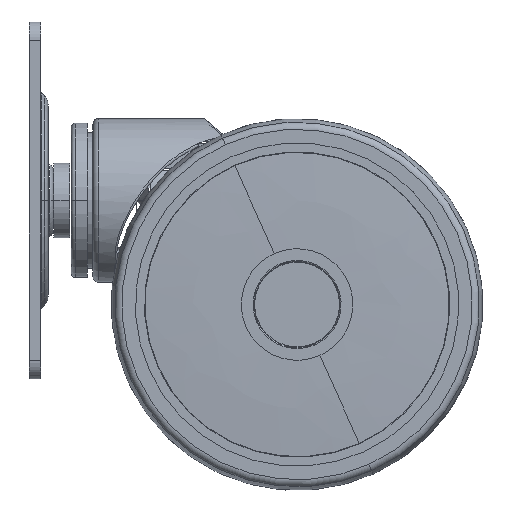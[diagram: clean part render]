
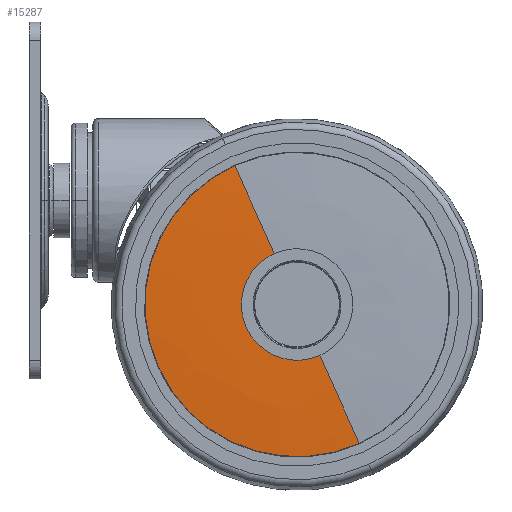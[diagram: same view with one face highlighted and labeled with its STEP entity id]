
A CAD part, left-side view. The second image highlights one B-rep face of the part: STEP entity #15287.
In plain terms, the highlighted free-form (B-spline) face has degree [3, 3] with [7, 4] control points.
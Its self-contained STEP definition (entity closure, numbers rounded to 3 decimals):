
#14877=CARTESIAN_POINT('',(-31.,0.,0.));
#14878=DIRECTION('',(-1.,0.,0.));
#14879=DIRECTION('',(0.,0.409,0.913));
#14880=AXIS2_PLACEMENT_3D('',#14877,#14878,#14879);
#14932=CARTESIAN_POINT('',(-30.204,0.,0.));
#14933=DIRECTION('',(1.,0.,0.));
#14934=DIRECTION('',(0.,-0.409,-0.913));
#14935=AXIS2_PLACEMENT_3D('',#14932,#14933,#14934);
#14937=CARTESIAN_POINT('',(326.9,6.954,15.513));
#14938=DIRECTION('',(0.,-0.913,0.409));
#14939=DIRECTION('',(-0.998,0.027,0.061));
#14940=AXIS2_PLACEMENT_3D('',#14937,#14938,#14939);
#14942=CARTESIAN_POINT('',(326.9,-6.954,-15.513));
#14943=DIRECTION('',(0.,0.913,-0.409));
#14944=DIRECTION('',(-0.998,-0.027,-0.061));
#14945=AXIS2_PLACEMENT_3D('',#14942,#14943,#14944);
#15027=CARTESIAN_POINT('',(-31.,6.136,13.688));
#15028=CARTESIAN_POINT('',(-31.,-6.136,-13.688));
#15029=VERTEX_POINT('',#15027);
#15030=VERTEX_POINT('',#15028);
#15031=CARTESIAN_POINT('',(-30.204,16.743,
37.352));
#15032=CARTESIAN_POINT('',(-30.204,-16.743,
-37.352));
#15033=VERTEX_POINT('',#15031);
#15034=VERTEX_POINT('',#15032);
#15251=CARTESIAN_POINT('',(-30.997,-6.741,
-12.816));
#15252=CARTESIAN_POINT('',(-31.06,-10.93,
-20.78));
#15253=CARTESIAN_POINT('',(-30.784,-15.117,
-28.74));
#15254=CARTESIAN_POINT('',(-30.169,-19.296,
-36.686));
#15255=CARTESIAN_POINT('',(-30.997,1.146,
-16.965));
#15256=CARTESIAN_POINT('',(-31.06,1.858,
-27.506));
#15257=CARTESIAN_POINT('',(-30.784,2.569,
-38.043));
#15258=CARTESIAN_POINT('',(-30.169,3.28,
-48.561));
#15259=CARTESIAN_POINT('',(-30.997,9.569,
-14.055));
#15260=CARTESIAN_POINT('',(-31.06,15.515,
-22.789));
#15261=CARTESIAN_POINT('',(-30.784,21.459,
-31.519));
#15262=CARTESIAN_POINT('',(-30.169,27.391,
-40.232));
#15263=CARTESIAN_POINT('',(-30.997,13.214,
-5.923));
#15264=CARTESIAN_POINT('',(-31.06,21.425,
-9.604));
#15265=CARTESIAN_POINT('',(-30.784,29.633,
-13.283));
#15266=CARTESIAN_POINT('',(-30.169,37.825,
-16.955));
#15267=CARTESIAN_POINT('',(-30.997,16.859,
2.209));
#15268=CARTESIAN_POINT('',(-31.06,27.335,
3.581));
#15269=CARTESIAN_POINT('',(-30.784,37.807,
4.953));
#15270=CARTESIAN_POINT('',(-30.169,48.259,
6.323));
#15271=CARTESIAN_POINT('',(-30.997,13.427,
10.433));
#15272=CARTESIAN_POINT('',(-31.06,21.77,
16.915));
#15273=CARTESIAN_POINT('',(-30.784,30.109,
23.395));
#15274=CARTESIAN_POINT('',(-30.169,38.433,
29.863));
#15275=CARTESIAN_POINT('',(-30.997,5.082,
13.56));
#15276=CARTESIAN_POINT('',(-31.06,8.24,
21.986));
#15277=CARTESIAN_POINT('',(-30.784,11.396,
30.408));
#15278=CARTESIAN_POINT('',(-30.169,14.546,
38.815));
#15279=(BOUNDED_SURFACE()B_SPLINE_SURFACE(3,3,((#15251,#15252,#15253,#15254),(
#15255,#15256,#15257,#15258),(#15259,#15260,#15261,#15262),(#15263,#15264,
#15265,#15266),(#15267,#15268,#15269,#15270),(#15271,#15272,#15273,#15274),(
#15275,#15276,#15277,#15278)),.UNSPECIFIED.,.F.,.F.,.F.)B_SPLINE_SURFACE_WITH_KNOTS((4,3,4),(4,4),(0.,1.,2.),(0.,1.),.UNSPECIFIED.)GEOMETRIC_REPRESENTATION_ITEM()RATIONAL_B_SPLINE_SURFACE(((1.188,1.187,
1.187,1.188),(0.938,0.937,
0.937,0.938),(0.938,0.937,
0.937,0.938),(1.188,1.187,
1.187,1.188),(0.938,0.937,
0.937,0.938),(0.938,0.937,
0.937,0.938),(1.188,1.187,
1.187,1.188)))REPRESENTATION_ITEM('')SURFACE());
#15281=ORIENTED_EDGE('',*,*,#15280,.T.);
#15282=ORIENTED_EDGE('',*,*,#15239,.T.);
#15283=ORIENTED_EDGE('',*,*,#15118,.T.);
#15284=ORIENTED_EDGE('',*,*,#15236,.F.);
#15285=EDGE_LOOP('',(#15281,#15282,#15283,#15284));
#15286=FACE_OUTER_BOUND('',#15285,.F.);
#14881=CIRCLE('',#14880,15.);
#14936=CIRCLE('',#14935,40.933);
#14941=CIRCLE('',#14940,357.906);
#14946=CIRCLE('',#14945,357.906);
#15118=EDGE_CURVE('',#15029,#15030,#14881,.T.);
#15236=EDGE_CURVE('',#15034,#15030,#14946,.T.);
#15239=EDGE_CURVE('',#15033,#15029,#14941,.T.);
#15280=EDGE_CURVE('',#15034,#15033,#14936,.T.);
#15287=ADVANCED_FACE('',(#15286),#15279,.T.);
